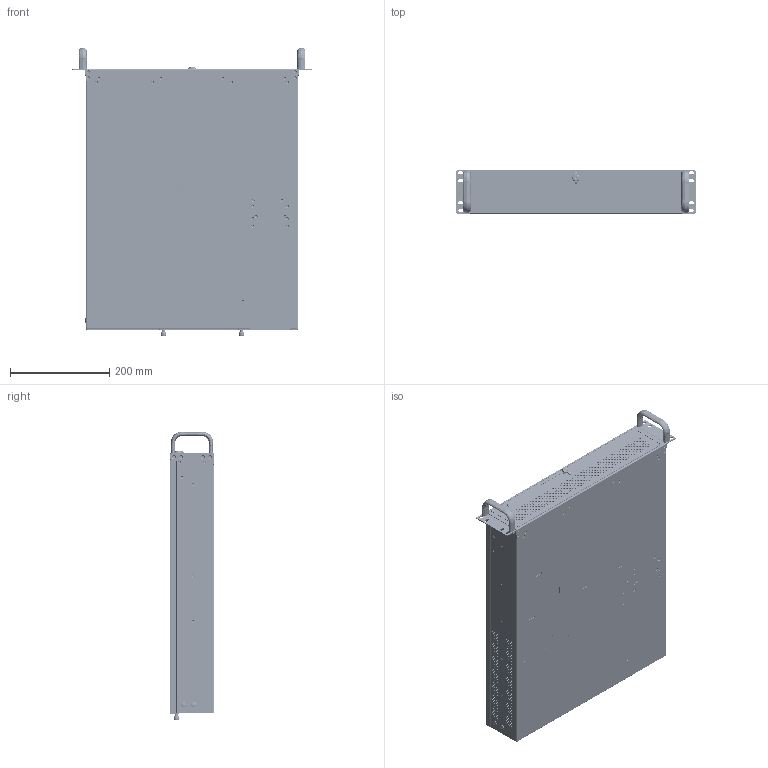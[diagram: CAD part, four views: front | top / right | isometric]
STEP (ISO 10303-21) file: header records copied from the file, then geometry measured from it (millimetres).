
FILE_DESCRIPTION (( 'STEP AP203' ), '1' );
FILE_NAME ('SYSTEM_ASSY-HPC7242.STEP', '2013-06-07T08:09:04', ( 'ITD.MIS' ), ( '' ), 'SwSTEP 2.0', 'SolidWorks 2012', '' );
FILE_SCHEMA (( 'CONFIG_CONTROL_DESIGN' ));
Products named in the file (1): SYSTEM_ASSY-HPC7242
Bounding box: 482 x 88.4 x 580.53 mm (x, y, z)
Volume: 19274986 mm3; surface area: 1937125.9 mm2
Topology: 27 solids, 27 shells, 3870 faces, 10787 edges, 7087 vertices
Faces by surface type: cylinder 2401, plane 1146, bspline 199, cone 120, sphere 4
Entity records: 141478 total; most frequent: CARTESIAN_POINT 35851, DIRECTION 22413, ORIENTED_EDGE 21534, EDGE_CURVE 10767, AXIS2_PLACEMENT_3D 8563, VERTEX_POINT 7085, EDGE_LOOP 5834, LINE 5287
